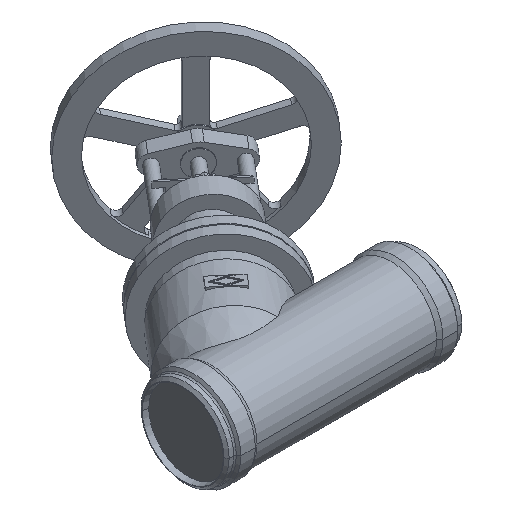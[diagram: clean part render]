
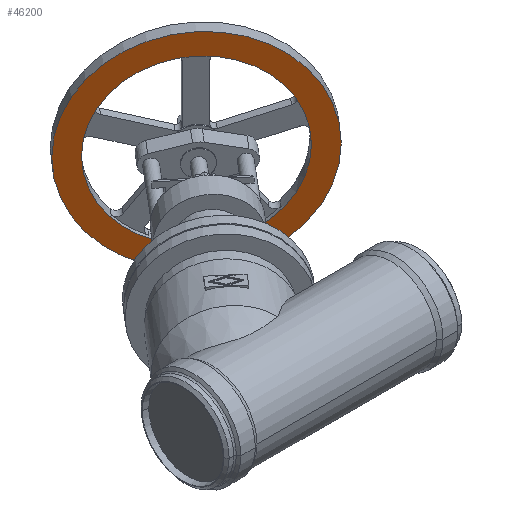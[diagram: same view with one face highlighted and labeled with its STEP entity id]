
A CAD part, isometric view. The second image highlights one B-rep face of the part: STEP entity #46200.
In plain terms, the highlighted planar face has unit normal (-0.643, -0.766, 0).
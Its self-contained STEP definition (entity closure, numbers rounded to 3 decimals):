
#44960=CARTESIAN_POINT('',(481.241,737.466,
0.));
#44970=VERTEX_POINT('',#44960);
#45810=CARTESIAN_POINT('',(797.618,471.995,
0.));
#45820=VERTEX_POINT('',#45810);
#45850=CARTESIAN_POINT('',(639.429,604.731,0.));
#45860=DIRECTION('',(0.643,0.766,
0.));
#45870=DIRECTION('',(-0.766,0.643,
0.));
#45880=AXIS2_PLACEMENT_3D('',#45850,#45860,#45870);
#45890=CIRCLE('',#45880,206.5);
#45900=EDGE_CURVE('',#45820,#44970,#45890,.T.);
#45950=CARTESIAN_POINT('',(460.75,754.661,
0.));
#45960=DIRECTION('',(-0.643,-0.766,0.));
#45970=DIRECTION('',(0.766,-0.643,
0.));
#45980=AXIS2_PLACEMENT_3D('',#45950,#45960,#45970);
#45990=PLANE('',#45980);
#46000=CARTESIAN_POINT('',(639.429,604.731,0.));
#46010=DIRECTION('',(0.643,0.766,
0.));
#46020=DIRECTION('',(-0.766,0.643,
0.));
#46030=AXIS2_PLACEMENT_3D('',#46000,#46010,#46020);
#46040=CIRCLE('',#46030,260.);
#46050=CARTESIAN_POINT('',(838.601,437.606,
0.));
#46060=VERTEX_POINT('',#46050);
#46070=CARTESIAN_POINT('',(440.258,771.856,
0.));
#46080=VERTEX_POINT('',#46070);
#46090=EDGE_CURVE('',#46060,#46080,#46040,.T.);
#46100=ORIENTED_EDGE('',*,*,#46090,.F.);
#46110=EDGE_CURVE('',#46080,#46060,#46040,.T.);
#46120=ORIENTED_EDGE('',*,*,#46110,.F.);
#46130=EDGE_LOOP('',(#46120,#46100));
#46140=FACE_OUTER_BOUND('',#46130,.T.);
#46150=EDGE_CURVE('',#44970,#45820,#45890,.T.);
#46160=ORIENTED_EDGE('',*,*,#46150,.T.);
#46170=ORIENTED_EDGE('',*,*,#45900,.T.);
#46180=EDGE_LOOP('',(#46170,#46160));
#46190=FACE_BOUND('',#46180,.T.);
#46200=ADVANCED_FACE('',(#46140,#46190),#45990,.T.);
